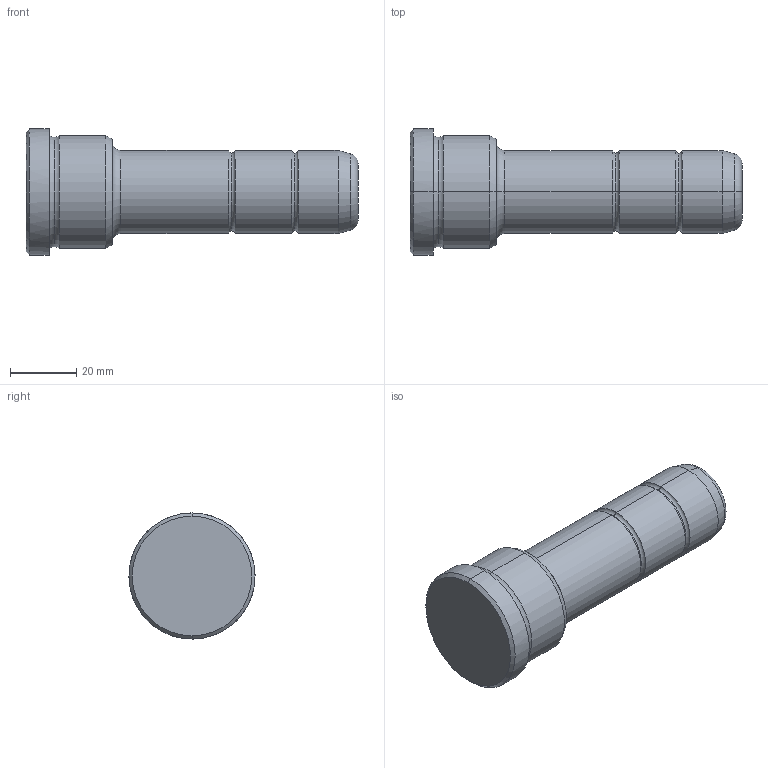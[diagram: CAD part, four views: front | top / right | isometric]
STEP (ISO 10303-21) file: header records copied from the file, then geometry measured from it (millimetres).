
FILE_DESCRIPTION(('CATIA V5 STEP Exchange'),'2;1');
FILE_NAME('C:\Users\Utente\Desktop\IO LAVORO\3D X SITO CF\X SITO\PLASTICA\351\351-25X26X100.stp','2021-08-28T09:22:17+00:00',('none'),('none'),'CATIA Version 5 Release 20 GA (IN-10)','CATIA V5 STEP AP203','none');
FILE_SCHEMA(('CONFIG_CONTROL_DESIGN'));
Length unit declared in the file: millimetre
Products named in the file (1): 351-25X26X100
Bounding box: 100 x 38 x 38 mm (x, y, z)
Volume: 60724.9 mm3; surface area: 10635.3 mm2
Topology: 1 solids, 1 shells, 36 faces, 102 edges, 70 vertices
Faces by surface type: torus 16, cylinder 10, cone 6, plane 4
Entity records: 1292 total; most frequent: CARTESIAN_POINT 321, ORIENTED_EDGE 204, DIRECTION 166, AXIS2_PLACEMENT_3D 115, EDGE_CURVE 102, CIRCLE 78, VERTEX_POINT 70, EDGE_LOOP 38
